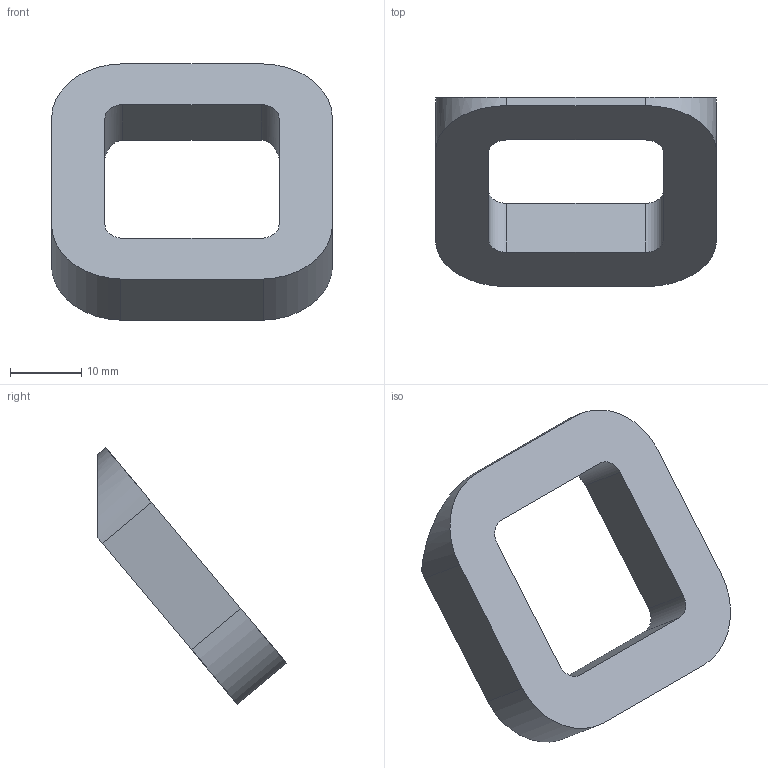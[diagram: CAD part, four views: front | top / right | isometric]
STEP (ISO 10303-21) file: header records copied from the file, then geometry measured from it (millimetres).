
FILE_DESCRIPTION( ( 'STEP AP214' ), '1' );
FILE_NAME( 'C:/Users/swati/Desktop/buena/9207444/9207444.stp', ' ', ( ' ' ), ( ' ' ), 'PSStep 15.0.47', 'PARTsolutions', ' ' );
FILE_SCHEMA( ( 'AUTOMOTIVE_DESIGN { 1 0 10303 214 1 1 1 1 }' ) );
Length unit declared in the file: millimetre
Products named in the file (2): 95 ; _
Assembly tree (1 placements, depth 2):
  95 
    _
Bounding box: 39.5 x 26.54 x 36.04 mm (x, y, z)
Volume: 6676.4 mm3; surface area: 3815.5 mm2
Topology: 1 solids, 1 shells, 23 faces, 60 edges, 40 vertices
Faces by surface type: plane 13, cylinder 10
Full cylindrical faces by diameter (mm): 4 x2
Entity records: 934 total; most frequent: DIRECTION 132, CARTESIAN_POINT 123, ORIENTED_EDGE 116, EDGE_CURVE 58, AXIS2_PLACEMENT_3D 49, VERTEX_POINT 40, LINE 34, VECTOR 34
